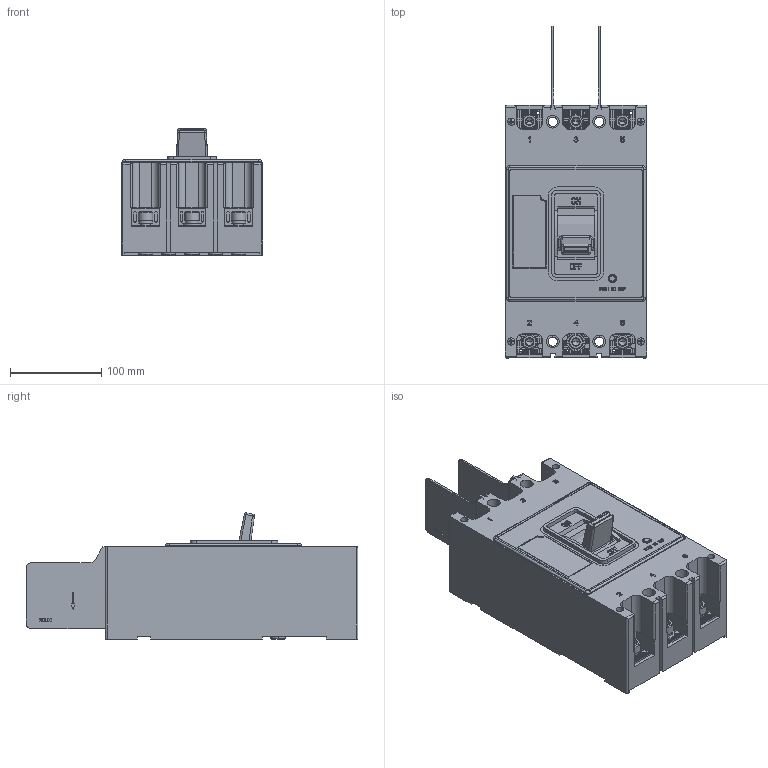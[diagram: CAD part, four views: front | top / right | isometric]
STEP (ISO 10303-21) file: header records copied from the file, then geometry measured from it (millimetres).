
FILE_DESCRIPTION((''),'2;1');
FILE_NAME('2256000800_SW0001','2023-11-13T',('baocang.li'),(''),'PRO/ENGINEER BY PARAMETRIC TECHNOLOGY CORPORATION, 2015440','PRO/ENGINEER BY PARAMETRIC TECHNOLOGY CORPORATION, 2015440','');
FILE_SCHEMA(('CONFIG_CONTROL_DESIGN'));
Products named in the file (1): 2256000800_SW0001
Bounding box: 155.5 x 364 x 138.39 mm (x, y, z)
Volume: 3694338.9 mm3; surface area: 406971.8 mm2
Topology: 11 solids, 40 shells, 7302 faces, 18326 edges, 12064 vertices
Faces by surface type: plane 6385, cylinder 677, cone 174, torus 32, bspline 18, sphere 16
Entity records: 220281 total; most frequent: CARTESIAN_POINT 43933, ORIENTED_EDGE 36628, DIRECTION 34401, EDGE_CURVE 18314, VECTOR 16017, LINE 16017, VERTEX_POINT 12064, AXIS2_PLACEMENT_3D 9192
